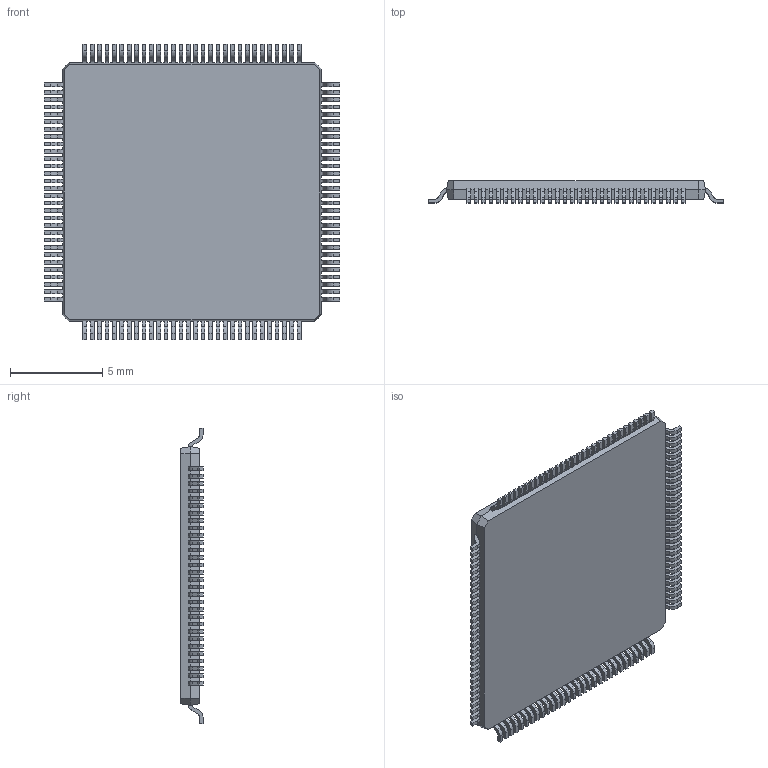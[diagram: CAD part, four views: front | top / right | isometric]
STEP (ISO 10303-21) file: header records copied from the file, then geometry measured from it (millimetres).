
FILE_DESCRIPTION (( 'STEP AP214' ), '1' );
FILE_NAME ('TSQFP40P1600X1600-120.STEP', '2011-01-31T08:45:55', ( 'vpeshkov' ), ( 'cad-design.ru' ), 'SwSTEP 2.0', 'SolidWorks 2009', '' );
FILE_SCHEMA (( 'AUTOMOTIVE_DESIGN' ));
Length unit declared in the file: millimetre
Products named in the file (1): TSQFP40P1600X1600-120
Bounding box: 16 x 1.2 x 16 mm (x, y, z)
Volume: 199.5 mm3; surface area: 561.7 mm2
Topology: 1 solids, 1 shells, 1344 faces, 4012 edges, 2672 vertices
Faces by surface type: plane 860, cylinder 484
Entity records: 59769 total; most frequent: CARTESIAN_POINT 8029, ORIENTED_EDGE 8024, DIRECTION 7670, EDGE_CURVE 4012, VECTOR 3044, LINE 3044, VERTEX_POINT 2672, AXIS2_PLACEMENT_3D 2313
